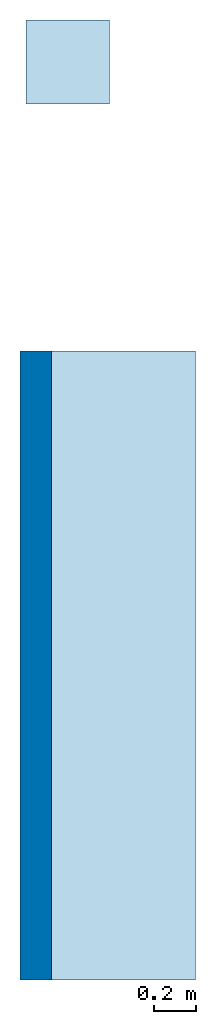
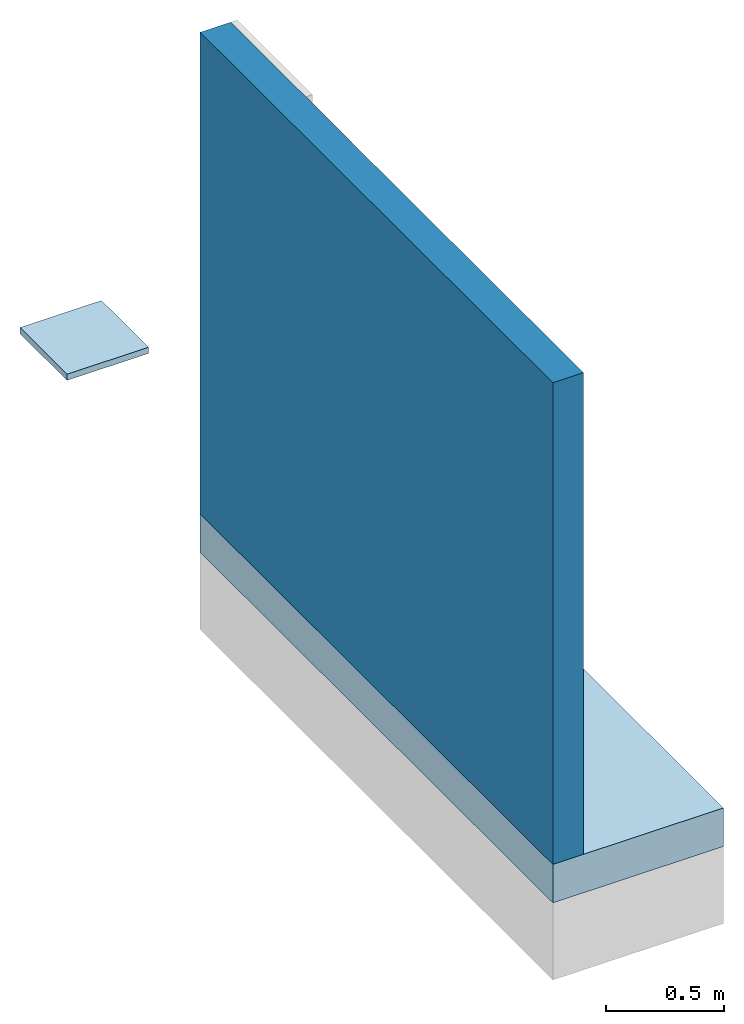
# One storey, part 1 of 2: 2 slabs, 1 wall.
"""IFC2X3 building model written with IfcOpenShell, lengths in metres."""

import ifcopenshell
import ifcopenshell.guid

model = None  # the IFC model being written
_history = None  # IfcOwnerHistory: only IFC2X3 demands one
_inside = {}  # id of a spatial element -> (the spatial element, [elements in it])
_under = {}  # id of a project, library or spatial element -> (it, [spatial elements below it])
_declared = {}  # id of a project -> (the project, [libraries it declares])
_typed = {}  # id of a type object -> (the type object, [elements of that type])
_made_of = {}  # id of a material, layer set ... -> (it, [elements and type objects made of it])


def new_model(schema):
    """Start an empty IFC model of exactly this schema.

    Asked for "IFC4X3", IfcOpenShell would pick the latest addendum, in which some entities
    have other attributes; the version numbers below select the first issue.
    IFC2X3 requires an IfcOwnerHistory on every rooted entity: one is made here for all.
    """
    global model, _history
    if schema == "IFC4X3":
        model = ifcopenshell.file(schema_version=(4, 3, 0, 0))
    else:
        model = ifcopenshell.file(schema=schema)
    _inside.clear()
    _under.clear()
    _declared.clear()
    _typed.clear()
    _made_of.clear()
    _history = None
    if model.schema == "IFC2X3":
        org = make("IfcOrganization", Name="unknown")
        user = make(
            "IfcPersonAndOrganization",
            ThePerson=make("IfcPerson", FamilyName="unknown"),
            TheOrganization=org,
        )
        app = make(
            "IfcApplication",
            ApplicationDeveloper=org,
            Version="unknown",
            ApplicationFullName="unknown",
            ApplicationIdentifier="unknown",
        )
        _history = make(
            "IfcOwnerHistory",
            OwningUser=user,
            OwningApplication=app,
            ChangeAction="ADDED",
            CreationDate=0,
        )
    return model


def make(cls, **values):
    """One entity of the class cls with the attributes given. An attribute that is None is left unset."""
    return model.create_entity(
        cls, **{name: value for name, value in values.items() if value is not None}
    )


def entity(cls, *values):
    """Any entity or typed value of the class cls, its attributes in the order of the schema. None: left unset."""
    e = model.create_entity(cls)
    for i, value in enumerate(values):
        if value is not None:
            e[i] = value
    return e


def rooted(cls, **values):
    """An entity with a GlobalId (a new one), such as an element, a storey or a relation."""
    return make(cls, GlobalId=ifcopenshell.guid.new(), OwnerHistory=_history, **values)


def si_unit(unit_type, name, prefix=None):
    """IfcSIUnit, for example si_unit("LENGTHUNIT", "METRE", prefix="MILLI")."""
    return make("IfcSIUnit", UnitType=unit_type, Prefix=prefix, Name=name)


def converted_unit(unit_type, name, factor, base, dimensions=None, offset=None):
    """IfcConversionBasedUnit, such as the inch: factor (a typed value) times the base unit."""
    return make(
        "IfcConversionBasedUnit"
        if offset is None
        else "IfcConversionBasedUnitWithOffset",
        ConversionOffset=offset,
        Dimensions=None
        if dimensions is None
        else entity("IfcDimensionalExponents", *dimensions),
        UnitType=unit_type,
        Name=name,
        ConversionFactor=make(
            "IfcMeasureWithUnit", ValueComponent=factor, UnitComponent=base
        ),
    )


def derived_unit(unit_type, elements):
    """IfcDerivedUnit: a product of units, each with its exponent."""
    return make(
        "IfcDerivedUnit",
        Elements=[
            make("IfcDerivedUnitElement", Unit=unit, Exponent=power)
            for unit, power in elements
        ],
        UnitType=unit_type,
    )


def assignment(units):
    """IfcUnitAssignment: the units of a project."""
    return None if units is None else make("IfcUnitAssignment", Units=units)


def point(xyz):
    """IfcCartesianPoint."""
    return None if xyz is None else make("IfcCartesianPoint", Coordinates=xyz)


def direction(xyz):
    """IfcDirection."""
    return None if xyz is None else make("IfcDirection", DirectionRatios=xyz)


def frame(location, z_axis=None, x_axis=None):
    """IfcAxis2Placement3D, a coordinate frame: its origin and axes. An axis left out is left unset."""
    return make(
        "IfcAxis2Placement3D",
        Location=point(location),
        Axis=direction(z_axis),
        RefDirection=direction(x_axis),
    )


def frame_2d(location, x_axis=None):
    """IfcAxis2Placement2D, a coordinate frame in the plane: its origin and x axis."""
    return make(
        "IfcAxis2Placement2D", Location=point(location), RefDirection=direction(x_axis)
    )


def origin():
    """The frame at (0, 0, 0) with its axes left unset."""
    return frame((0.0, 0.0, 0.0))


def origin_2d_with_axis():
    """The frame at (0, 0) in the plane with the x axis (1, 0) written out."""
    return frame_2d((0.0, 0.0), x_axis=(1.0, 0.0))


def place(relative_to, where):
    """IfcLocalPlacement: puts the frame where relative to a parent placement (None: the world)."""
    return make(
        "IfcLocalPlacement", PlacementRelTo=relative_to, RelativePlacement=where
    )


def context(
    kind, dimensions, precision=None, world=None, true_north=None, identifier=None
):
    """IfcGeometricRepresentationContext, for example the 3D "Model" context."""
    return make(
        "IfcGeometricRepresentationContext",
        ContextIdentifier=identifier,
        ContextType=kind,
        CoordinateSpaceDimension=dimensions,
        Precision=precision,
        WorldCoordinateSystem=world,
        TrueNorth=true_north,
    )


def subcontext(parent, identifier, kind, view, scale=None):
    """IfcGeometricRepresentationSubContext, for example "Body" below "Model"."""
    return make(
        "IfcGeometricRepresentationSubContext",
        ContextIdentifier=identifier,
        ContextType=kind,
        ParentContext=parent,
        TargetScale=scale,
        TargetView=view,
    )


def project(units=None, contexts=None):
    """IfcProject with its units and contexts."""
    return rooted(
        "IfcProject",
        Name="project",
        RepresentationContexts=contexts,
        UnitsInContext=assignment(units),
    )


def spatial(cls, under=None, at=None, **own):
    """A site, building, storey or space (cls), placed at a placement, below another one or the project."""
    s = rooted(cls, ObjectPlacement=at, **own)
    if under is not None:
        _under.setdefault(under.id(), (under, []))[1].append(s)
    return s


def profile(cls, at=None, kind="AREA", **sizes):
    """A parametric profile (cls). Its sizes go by their IFC names, for example OverallWidth=200.0."""
    return make(cls, ProfileType=kind, Position=at, **sizes)


def rectangle(**sizes):
    """IfcRectangleProfileDef."""
    return profile("IfcRectangleProfileDef", **sizes)


def extrude(swept, where, along, depth):
    """IfcExtrudedAreaSolid: the profile swept, set in the frame where, extruded along a direction by depth."""
    return make(
        "IfcExtrudedAreaSolid",
        SweptArea=swept,
        Position=where,
        ExtrudedDirection=direction(along),
        Depth=depth,
    )


def shape(context_of_items, identifier, shape_type, items):
    """IfcShapeRepresentation: the items that make up one representation, for example the "Body"."""
    return make(
        "IfcShapeRepresentation",
        ContextOfItems=context_of_items,
        RepresentationIdentifier=identifier,
        RepresentationType=shape_type,
        Items=items,
    )


def material(Name=None, Category=None):
    """IfcMaterial."""
    return make("IfcMaterial", Name=Name, Category=Category)


def layer(
    of_material, thickness, ventilated=None, Name=None, Category=None, Priority=None
):
    """IfcMaterialLayer: one layer of a wall or slab, of a material (None: an air gap)."""
    return make(
        "IfcMaterialLayer",
        Material=of_material,
        LayerThickness=thickness,
        IsVentilated=ventilated,
        Name=Name,
        Category=Category,
        Priority=Priority,
    )


def layer_set(layers, Name=None):
    """IfcMaterialLayerSet."""
    return make("IfcMaterialLayerSet", MaterialLayers=layers, LayerSetName=Name)


def layer_usage(for_layer_set, set_direction, sense, offset, extent=None):
    """IfcMaterialLayerSetUsage: how a layer set lies in its element."""
    return make(
        "IfcMaterialLayerSetUsage",
        ForLayerSet=for_layer_set,
        LayerSetDirection=set_direction,
        DirectionSense=sense,
        OffsetFromReferenceLine=offset,
        ReferenceExtent=extent,
    )


def made_of(thing, what):
    """Note that an element or type object is made of a material, layer set ...; save() writes the relation."""
    if what is not None:
        _made_of.setdefault(what.id(), (what, []))[1].append(thing)
    return thing


def type_object(cls, material=None, **own):
    """A type object (cls), such as IfcWallType, which elements share."""
    return made_of(rooted(cls, **own), material)


def element(
    cls,
    number,
    at=None,
    inside=None,
    cuts=None,
    type_object=None,
    material=None,
    context=None,
    identifier="Body",
    shape_type=None,
    held_by="IfcProductDefinitionShape",
    body=None,
    shapes=None,
    **own,
):
    """One element of the class cls, such as IfcWall. Its Tag is "e" and its number.

    at: its placement. inside: the storey or other place that contains it. cuts: it is an
    opening in that element (IfcRelVoidsElement). A single representation is given by context,
    identifier, shape_type and body (its items); several are given by shapes. held_by: the class
    of the entity that holds the representations. save() writes the other relations.
    """
    e = rooted(cls, Tag="e%d" % number, ObjectPlacement=at, **own)
    if body is not None:
        shapes = [shape(context, identifier, shape_type, body)]
    if shapes is not None:
        e.Representation = make(held_by, Representations=shapes)
    if inside is not None:
        _inside.setdefault(inside.id(), (inside, []))[1].append(e)
    if cuts is not None:
        rooted(
            "IfcRelVoidsElement", RelatingBuildingElement=cuts, RelatedOpeningElement=e
        )
    if type_object is not None:
        _typed.setdefault(type_object.id(), (type_object, []))[1].append(e)
    return made_of(e, material)


def aggregate(whole, parts):
    """IfcRelAggregates: a whole, such as a stair, and the parts it consists of."""
    return rooted("IfcRelAggregates", RelatingObject=whole, RelatedObjects=parts)


def save(model, path):
    """Write the relations noted so far, then the file.

    IfcRelAggregates (storeys below a building ...), IfcRelContainedInSpatialStructure (elements
    in a storey), IfcRelDefinesByType, IfcRelAssociatesMaterial and IfcRelDeclares: one each for
    every whole, place, type object, material and project.
    """
    for whole, parts in _under.values():
        aggregate(whole, parts)
    for where, things in _inside.values():
        rooted(
            "IfcRelContainedInSpatialStructure",
            RelatedElements=things,
            RelatingStructure=where,
        )
    for kind, things in _typed.values():
        rooted("IfcRelDefinesByType", RelatedObjects=things, RelatingType=kind)
    for what, things in _made_of.values():
        rooted("IfcRelAssociatesMaterial", RelatedObjects=things, RelatingMaterial=what)
    for by, libraries in _declared.values():
        rooted("IfcRelDeclares", RelatingContext=by, RelatedDefinitions=libraries)
    model.write(path)


model = new_model("IFC2X3")

# Units and contexts
model_context = context("Model", 3, precision=1e-05, world=origin(), true_north=direction((6.123031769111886e-17, 1.0)))
body_context = subcontext(model_context, "Body", "Model", "MODEL_VIEW")
ifc_project = project(units=[si_unit("LENGTHUNIT", "METRE"), si_unit("AREAUNIT", "SQUARE_METRE"), si_unit("VOLUMEUNIT", "CUBIC_METRE"), converted_unit("PLANEANGLEUNIT", "DEGREE", entity("IfcRatioMeasure", 0.017453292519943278), si_unit("PLANEANGLEUNIT", "RADIAN"), dimensions=[0, 0, 0, 0, 0, 0, 0]), si_unit("MASSUNIT", "GRAM", prefix="KILO"), derived_unit("MASSDENSITYUNIT", [(si_unit("MASSUNIT", "GRAM", prefix="KILO"), 1), (si_unit("LENGTHUNIT", "METRE"), -3)]), derived_unit("IONCONCENTRATIONUNIT", [(si_unit("MASSUNIT", "GRAM", prefix="KILO"), 1), (si_unit("LENGTHUNIT", "METRE"), -3)]), derived_unit("MOMENTOFINERTIAUNIT", [(si_unit("LENGTHUNIT", "METRE"), 4)]), si_unit("TIMEUNIT", "SECOND"), si_unit("FREQUENCYUNIT", "HERTZ"), si_unit("THERMODYNAMICTEMPERATUREUNIT", "DEGREE_CELSIUS"), derived_unit("THERMALTRANSMITTANCEUNIT", [(si_unit("MASSUNIT", "GRAM", prefix="KILO"), 1), (si_unit("THERMODYNAMICTEMPERATUREUNIT", "KELVIN"), -1), (si_unit("TIMEUNIT", "SECOND"), -3)]), derived_unit("THERMALCONDUCTANCEUNIT", [(si_unit("MASSUNIT", "GRAM", prefix="KILO"), 1), (si_unit("THERMODYNAMICTEMPERATUREUNIT", "KELVIN"), -1), (si_unit("TIMEUNIT", "SECOND"), -3), (si_unit("LENGTHUNIT", "METRE"), 1)]), derived_unit("VOLUMETRICFLOWRATEUNIT", [(si_unit("LENGTHUNIT", "METRE"), 3), (si_unit("TIMEUNIT", "SECOND"), -1)]), derived_unit("MASSFLOWRATEUNIT", [(si_unit("MASSUNIT", "GRAM", prefix="KILO"), 1), (si_unit("TIMEUNIT", "SECOND"), -1)]), derived_unit("ROTATIONALFREQUENCYUNIT", [(si_unit("TIMEUNIT", "SECOND"), -1)]), si_unit("ELECTRICCURRENTUNIT", "AMPERE"), si_unit("ELECTRICVOLTAGEUNIT", "VOLT"), si_unit("POWERUNIT", "WATT"), si_unit("FORCEUNIT", "NEWTON", prefix="KILO"), si_unit("ILLUMINANCEUNIT", "LUX"), si_unit("LUMINOUSFLUXUNIT", "LUMEN"), si_unit("LUMINOUSINTENSITYUNIT", "CANDELA"), derived_unit("USERDEFINED", [(si_unit("MASSUNIT", "GRAM", prefix="KILO"), -1), (si_unit("LENGTHUNIT", "METRE"), -2), (si_unit("TIMEUNIT", "SECOND"), 3), (si_unit("LUMINOUSFLUXUNIT", "LUMEN"), 1)]), derived_unit("USERDEFINED", [(si_unit("MASSUNIT", "GRAM", prefix="KILO"), 1), (si_unit("TIMEUNIT", "SECOND"), -3), (si_unit("LENGTHUNIT", "METRE"), 3), (si_unit("ELECTRICCURRENTUNIT", "AMPERE"), -2)]), derived_unit("SOUNDPOWERUNIT", [(si_unit("MASSUNIT", "GRAM", prefix="KILO"), 1), (si_unit("TIMEUNIT", "SECOND"), -3), (si_unit("LENGTHUNIT", "METRE"), 2)]), derived_unit("SOUNDPRESSUREUNIT", [(si_unit("MASSUNIT", "GRAM", prefix="KILO"), 1), (si_unit("LENGTHUNIT", "METRE"), -1), (si_unit("TIMEUNIT", "SECOND"), -2)]), derived_unit("LINEARVELOCITYUNIT", [(si_unit("LENGTHUNIT", "METRE"), 1), (si_unit("TIMEUNIT", "SECOND"), -1)]), si_unit("PRESSUREUNIT", "PASCAL"), derived_unit("USERDEFINED", [(si_unit("MASSUNIT", "GRAM", prefix="KILO"), 1), (si_unit("LENGTHUNIT", "METRE"), -2), (si_unit("TIMEUNIT", "SECOND"), -2)]), derived_unit("LINEARFORCEUNIT", [(si_unit("MASSUNIT", "GRAM", prefix="KILO"), 1), (si_unit("TIMEUNIT", "SECOND"), -2)]), derived_unit("PLANARFORCEUNIT", [(si_unit("MASSUNIT", "GRAM", prefix="KILO"), 1), (si_unit("LENGTHUNIT", "METRE"), -1), (si_unit("TIMEUNIT", "SECOND"), -2)]), derived_unit("SPECIFICHEATCAPACITYUNIT", [(si_unit("THERMODYNAMICTEMPERATUREUNIT", "KELVIN"), -1), (si_unit("LENGTHUNIT", "METRE"), 2), (si_unit("TIMEUNIT", "SECOND"), -2)]), derived_unit("HEATINGVALUEUNIT", [(si_unit("LENGTHUNIT", "METRE"), 2), (si_unit("TIMEUNIT", "SECOND"), -2)]), derived_unit("VAPORPERMEABILITYUNIT", [(si_unit("LENGTHUNIT", "METRE"), -1), (si_unit("TIMEUNIT", "SECOND"), 1)]), derived_unit("DYNAMICVISCOSITYUNIT", [(si_unit("MASSUNIT", "GRAM", prefix="KILO"), 1), (si_unit("TIMEUNIT", "SECOND"), -1), (si_unit("LENGTHUNIT", "METRE"), -1)]), derived_unit("THERMALEXPANSIONCOEFFICIENTUNIT", [(si_unit("THERMODYNAMICTEMPERATUREUNIT", "KELVIN"), -1)]), derived_unit("MODULUSOFELASTICITYUNIT", [(si_unit("MASSUNIT", "GRAM", prefix="KILO"), 1), (si_unit("LENGTHUNIT", "METRE"), -1), (si_unit("TIMEUNIT", "SECOND"), -2)]), derived_unit("ISOTHERMALMOISTURECAPACITYUNIT", [(si_unit("LENGTHUNIT", "METRE"), 3), (si_unit("MASSUNIT", "GRAM", prefix="KILO"), -1)]), derived_unit("MOISTUREDIFFUSIVITYUNIT", [(si_unit("TIMEUNIT", "SECOND"), -1), (si_unit("LENGTHUNIT", "METRE"), 2)])], contexts=[model_context])

# Site, building, storey
site_placement = place(None, origin())
site = spatial("IfcSite", under=ifc_project, at=site_placement, Name="Default", CompositionType="ELEMENT")
building_placement = place(site_placement, origin())
building = spatial("IfcBuilding", under=site, at=building_placement, CompositionType="ELEMENT")
storey_placement = place(building_placement, frame((0.0, 0.0, -0.0025237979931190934)))
storey = spatial("IfcBuildingStorey", under=building, at=storey_placement, Name="ARQ Térreo", CompositionType="ELEMENT", Elevation=-0.0025237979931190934)

# Slabs
ifc_material_1 = material(Name="#reboco")
ifc_layer_1 = layer(ifc_material_1, 0.03)
ifc_material_2 = material(Name="#chapisco")
ifc_layer_2 = layer(ifc_material_2, 0.0009999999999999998)
ifc_material_3 = material(Name="#Viaplus 1000")
ifc_layer_3 = layer(ifc_material_3, 0.0009999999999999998)
ifc_layer_set_1 = layer_set([ifc_layer_1, ifc_layer_2, ifc_layer_3], Name="Piso:IMPH_VP1000")
ifc_layer_usage_1 = layer_usage(ifc_layer_set_1, "AXIS3", "POSITIVE", 0.0)
slab_type_1 = type_object("IfcSlabType", Name="Piso:IMPH_VP1000", PredefinedType="FLOOR", material=ifc_layer_set_1)
slab_1_placement = place(storey_placement, origin())
element("IfcSlab", 1, at=slab_1_placement, inside=storey, type_object=slab_type_1, material=ifc_layer_usage_1, Name="Piso:IMPH_VP1000", ObjectType="Piso:IMPH_VP1000", PredefinedType="FLOOR", context=body_context, shape_type="SweptSolid", body=[
    extrude(rectangle(XDim=0.4, YDim=0.4, at=origin_2d_with_axis()), frame((-0.13947178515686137, 2.254124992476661, 0.0), z_axis=(0.0, 0.0, -1.0), x_axis=(0.0, 1.0, 0.0)), (0.0, 0.0, 1.0), 0.032),
])
ifc_material_4 = material(Name="#concreto")
ifc_layer_4 = layer(ifc_material_4, 0.2)
ifc_layer_set_2 = layer_set([ifc_layer_4], Name="Piso:Piso:LAJE CONCRETO")
ifc_layer_usage_2 = layer_usage(ifc_layer_set_2, "AXIS3", "POSITIVE", 0.0)
slab_type_2 = type_object("IfcSlabType", Name="Piso:Piso:LAJE CONCRETO", PredefinedType="FLOOR", material=ifc_layer_set_2)
slab_2_placement = place(storey_placement, origin())
element("IfcSlab", 2, at=slab_2_placement, inside=storey, type_object=slab_type_2, material=ifc_layer_usage_2, Name="Piso:Piso:LAJE CONCRETO", ObjectType="Piso:Piso:LAJE CONCRETO", PredefinedType="FLOOR", context=body_context, shape_type="SweptSolid", body=[
    extrude(rectangle(XDim=3.0000000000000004, YDim=0.8370347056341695, at=frame_2d((0.0, 8.326672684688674e-17), x_axis=(1.0, 0.0))), frame((0.051467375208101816, -0.6256739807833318, 0.0), z_axis=(0.0, 0.0, -1.0), x_axis=(0.0, 1.0, 0.0)), (0.0, 0.0, 1.0), 0.2),
])

# Wall
ifc_material_5 = material(Name="Alvanearia")
ifc_layer_5 = layer(ifc_material_5, 0.14999999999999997)
ifc_layer_set_3 = layer_set([ifc_layer_5], Name="Parede básica:Parede de Alvenaria 2")
ifc_layer_usage_3 = layer_usage(ifc_layer_set_3, "AXIS2", "NEGATIVE", 0.07499999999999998)
wall_type = type_object("IfcWallType", Name="Parede básica:Parede de Alvenaria 2", PredefinedType="STANDARD", material=ifc_layer_set_3)
wall_placement = place(storey_placement, frame((-0.2920499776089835, 0.8743260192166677, 0.0), z_axis=(0.0, 0.0, 1.0), x_axis=(0.0, -1.0, 0.0)))
element("IfcWallStandardCase", 3, at=wall_placement, inside=storey, type_object=wall_type, material=ifc_layer_usage_3, Name="Parede básica:Parede Concreto", ObjectType="Parede básica:Parede Concreto", context=body_context, shape_type="SweptSolid", body=[
    extrude(rectangle(XDim=2.9999999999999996, YDim=0.14999999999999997, at=frame_2d((1.4999999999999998, -2.0816681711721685e-17), x_axis=(-1.0, 0.0))), origin(), (0.0, 0.0, 1.0), 2.4999999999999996),
])

save(model, "model.ifc")
